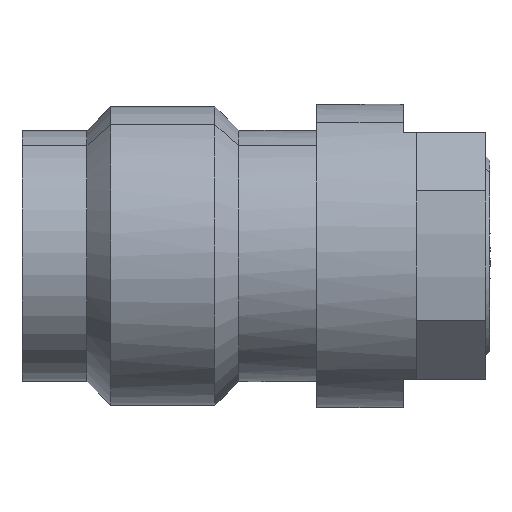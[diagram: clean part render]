
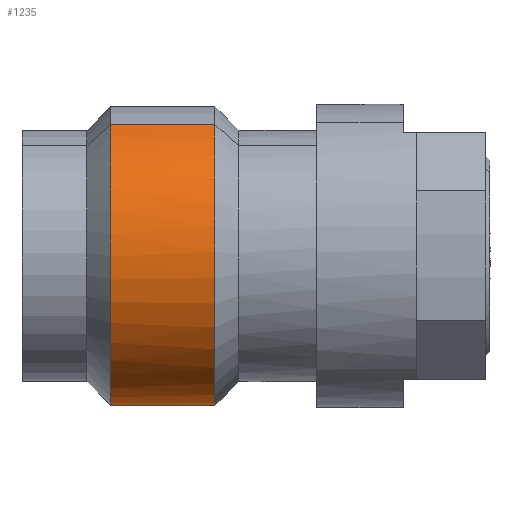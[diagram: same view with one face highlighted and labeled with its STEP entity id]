
A CAD part, top view. The second image highlights one B-rep face of the part: STEP entity #1235.
In plain terms, the highlighted cylindrical face has radius 3.45 mm (diameter 6.9 mm), a partial arc.
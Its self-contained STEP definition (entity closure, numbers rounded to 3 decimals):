
#1101=CARTESIAN_POINT('Vertex',(4.45,-3.028,-1.654)) ;
#1108=CARTESIAN_POINT('Vertex',(4.45,3.028,1.654)) ;
#1111=CARTESIAN_POINT('Axis2P3D Location',(4.45,0.,0.)) ;
#1193=CARTESIAN_POINT('Axis2P3D Location',(7.333,0.,0.)) ;
#1198=CARTESIAN_POINT('Line Origine',(7.333,-3.028,-1.654)) ;
#1202=CARTESIAN_POINT('Vertex',(2.05,-3.028,-1.654)) ;
#1205=CARTESIAN_POINT('Line Origine',(7.333,3.028,1.654)) ;
#1209=CARTESIAN_POINT('Vertex',(2.05,3.028,1.654)) ;
#1213=CARTESIAN_POINT('Control Point',(2.05,3.028,1.654)) ;
#1214=CARTESIAN_POINT('Control Point',(2.05,2.768,2.13)) ;
#1215=CARTESIAN_POINT('Control Point',(2.05,2.415,2.554)) ;
#1216=CARTESIAN_POINT('Control Point',(2.05,1.981,2.903)) ;
#1217=CARTESIAN_POINT('Control Point',(2.05,1.001,3.413)) ;
#1218=CARTESIAN_POINT('Control Point',(2.05,-0.099,3.513)) ;
#1219=CARTESIAN_POINT('Control Point',(2.05,-0.652,3.454)) ;
#1220=CARTESIAN_POINT('Control Point',(2.05,-1.705,3.121)) ;
#1221=CARTESIAN_POINT('Control Point',(2.05,-2.554,2.415)) ;
#1222=CARTESIAN_POINT('Control Point',(2.05,-2.903,1.981)) ;
#1223=CARTESIAN_POINT('Control Point',(2.05,-3.413,1.001)) ;
#1224=CARTESIAN_POINT('Control Point',(2.05,-3.513,-0.099)) ;
#1225=CARTESIAN_POINT('Control Point',(2.05,-3.454,-0.652)) ;
#1226=CARTESIAN_POINT('Control Point',(2.05,-3.287,-1.178)) ;
#1227=CARTESIAN_POINT('Control Point',(2.05,-3.028,-1.654)) ;
#1112=DIRECTION('Axis2P3D Direction',(-1.,0.,0.)) ;
#1194=DIRECTION('Axis2P3D Direction',(1.,0.,0.)) ;
#1195=DIRECTION('Axis2P3D XDirection',(0.,0.878,0.479)) ;
#1199=DIRECTION('Vector Direction',(1.,0.,0.)) ;
#1206=DIRECTION('Vector Direction',(1.,0.,0.)) ;
#1113=AXIS2_PLACEMENT_3D('Circle Axis2P3D',#1111,#1112,$) ;
#1196=AXIS2_PLACEMENT_3D('Cylinder Axis2P3D',#1193,#1194,#1195) ;
#1230=ORIENTED_EDGE('',*,*,#1204,.T.) ;
#1231=ORIENTED_EDGE('',*,*,#1115,.F.) ;
#1232=ORIENTED_EDGE('',*,*,#1211,.F.) ;
#1233=ORIENTED_EDGE('',*,*,#1228,.T.) ;
#1200=VECTOR('Line Direction',#1199,1.) ;
#1207=VECTOR('Line Direction',#1206,1.) ;
#1235=ADVANCED_FACE('',(#1234),#1197,.T.) ;
#1212=B_SPLINE_CURVE_WITH_KNOTS('',5,(#1213,#1214,#1215,#1216,#1217,#1218,#1219,#1220,#1221,#1222,#1223,#1224,#1225,#1226,#1227),.UNSPECIFIED.,.F.,.U.,(6,3,3,3,6),(-5.419,-2.71,0.,2.71,5.419),.UNSPECIFIED.) ;
#1114=CIRCLE('generated circle',#1113,3.45) ;
#1197=CYLINDRICAL_SURFACE('generated cylinder',#1196,3.45) ;
#1115=EDGE_CURVE('',#1109,#1102,#1114,.F.) ;
#1204=EDGE_CURVE('',#1203,#1102,#1201,.T.) ;
#1211=EDGE_CURVE('',#1210,#1109,#1208,.T.) ;
#1228=EDGE_CURVE('',#1210,#1203,#1212,.T.) ;
#1229=EDGE_LOOP('',(#1230,#1231,#1232,#1233)) ;
#1234=FACE_OUTER_BOUND('',#1229,.T.) ;
#1201=LINE('Line',#1198,#1200) ;
#1208=LINE('Line',#1205,#1207) ;
#1102=VERTEX_POINT('',#1101) ;
#1109=VERTEX_POINT('',#1108) ;
#1203=VERTEX_POINT('',#1202) ;
#1210=VERTEX_POINT('',#1209) ;
